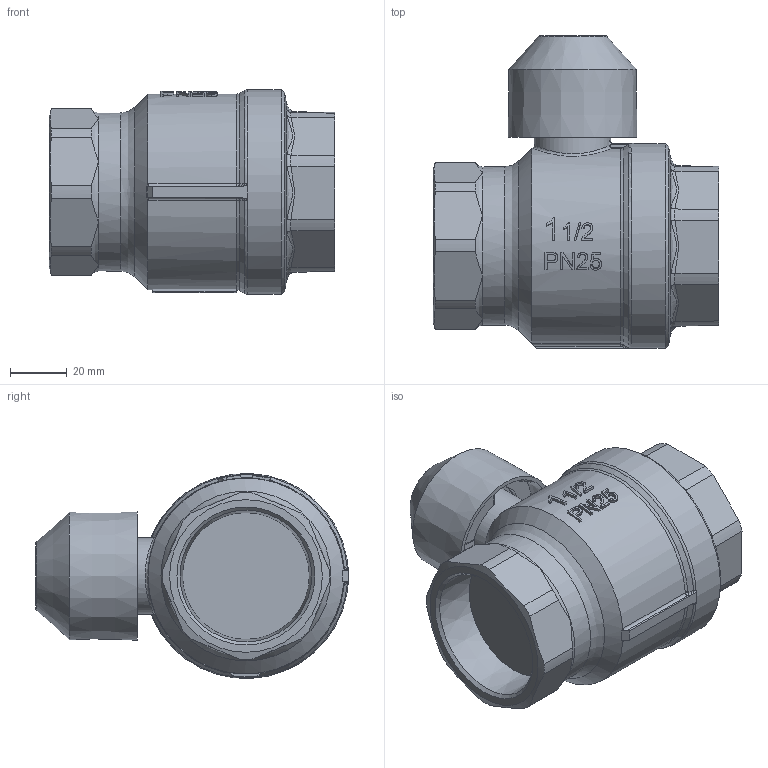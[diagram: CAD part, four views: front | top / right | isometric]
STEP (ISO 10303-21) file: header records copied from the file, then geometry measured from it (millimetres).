
FILE_DESCRIPTION((''),'2;1');
FILE_NAME('P:\Fastrack\53972_CRANE 3D\Ball Valves\Workplace\Crane Ball Valves\D171LS_1 1-2in\D171LS_1 1-2in.stp','2011-02-14T14:52:03',('btaylor'),(''),'Autodesk Inventor 2008','Autodesk Inventor 2008','');
FILE_SCHEMA(('AUTOMOTIVE_DESIGN { 1 0 10303 214 1 1 1 1 }'));
Length unit declared in the file: millimetre
Products named in the file (1): D171LS_1 1-2in
Bounding box: 100.92 x 110.65 x 72.44 mm (x, y, z)
Volume: 318961.1 mm3; surface area: 46627.9 mm2
Topology: 1 solids, 2 shells, 595 faces, 1623 edges, 1047 vertices
Faces by surface type: plane 299, bspline 136, cylinder 77, cone 73, torus 10
Full cylindrical faces by diameter (mm): 14 x1, 16 x1, 18 x1, 19 x1, 21.5 x1, 22 x1, 27 x1, 30 x1, 56 x1, 72.5 x1
Entity records: 44813 total; most frequent: CARTESIAN_POINT 30757, ORIENTED_EDGE 3130, DIRECTION 2328, EDGE_CURVE 1565, VERTEX_POINT 1029, AXIS2_PLACEMENT_3D 866, EDGE_LOOP 664, VECTOR 596
